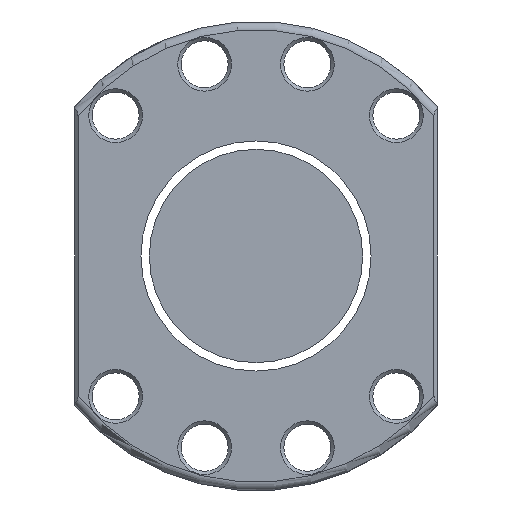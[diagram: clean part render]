
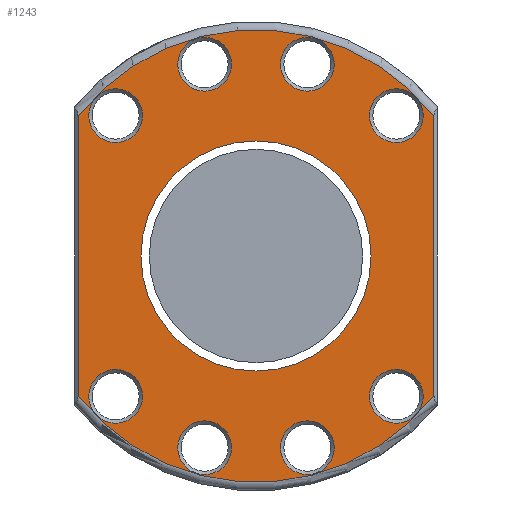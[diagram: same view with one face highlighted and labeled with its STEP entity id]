
A CAD part, left-side view. The second image highlights one B-rep face of the part: STEP entity #1243.
In plain terms, the highlighted planar face has unit normal (-1, 0, 0).
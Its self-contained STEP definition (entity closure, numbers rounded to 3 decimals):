
#27 = CIRCLE ( 'NONE', #1913, 6.3 ) ;
#70 = ORIENTED_EDGE ( 'NONE', *, *, #2938, .T. ) ;
#77 = AXIS2_PLACEMENT_3D ( 'NONE', #2575, #2050, #3082 ) ;
#81 = CIRCLE ( 'NONE', #891, 6.3 ) ;
#105 = EDGE_LOOP ( 'NONE', ( #2760 ) ) ;
#107 = EDGE_CURVE ( 'NONE', #2004, #2776, #3208, .T. ) ;
#110 = DIRECTION ( 'NONE',  ( 0., 0., -1. ) ) ;
#142 = AXIS2_PLACEMENT_3D ( 'NONE', #1722, #2279, #3029 ) ;
#154 = EDGE_CURVE ( 'NONE', #371, #371, #2077, .T. ) ;
#174 = DIRECTION ( 'NONE',  ( 0., -1., 0. ) ) ;
#230 = EDGE_LOOP ( 'NONE', ( #499 ) ) ;
#319 = CARTESIAN_POINT ( 'NONE',  ( -138., -39.18, -32.88 ) ) ;
#329 = ORIENTED_EDGE ( 'NONE', *, *, #465, .T. ) ;
#371 = VERTEX_POINT ( 'NONE', #1407 ) ;
#408 = AXIS2_PLACEMENT_3D ( 'NONE', #3023, #1922, #3247 ) ;
#415 = DIRECTION ( 'NONE',  ( -1., 0., 0. ) ) ;
#426 = CARTESIAN_POINT ( 'NONE',  ( -138., 0., 0. ) ) ;
#465 = EDGE_CURVE ( 'NONE', #2776, #2495, #1507, .T. ) ;
#499 = ORIENTED_EDGE ( 'NONE', *, *, #1861, .T. ) ;
#526 = CIRCLE ( 'NONE', #951, 53. ) ;
#574 = AXIS2_PLACEMENT_3D ( 'NONE', #1926, #1362, #2147 ) ;
#654 = CARTESIAN_POINT ( 'NONE',  ( -138., -41.7, 34.911 ) ) ;
#665 = FACE_BOUND ( 'NONE', #1132, .T. ) ;
#667 = ORIENTED_EDGE ( 'NONE', *, *, #1118, .T. ) ;
#672 = DIRECTION ( 'NONE',  ( 1., 0., 0. ) ) ;
#700 = FACE_BOUND ( 'NONE', #230, .T. ) ;
#723 = CARTESIAN_POINT ( 'NONE',  ( -138., -39.18, 32.88 ) ) ;
#753 = EDGE_LOOP ( 'NONE', ( #2913 ) ) ;
#801 = EDGE_CURVE ( 'NONE', #1643, #1643, #1911, .T. ) ;
#846 = DIRECTION ( 'NONE',  ( -1., 0., 0. ) ) ;
#877 = DIRECTION ( 'NONE',  ( 0., -1., 0. ) ) ;
#891 = AXIS2_PLACEMENT_3D ( 'NONE', #3277, #672, #1406 ) ;
#900 = ORIENTED_EDGE ( 'NONE', *, *, #154, .T. ) ;
#930 = FACE_BOUND ( 'NONE', #105, .T. ) ;
#944 = CIRCLE ( 'NONE', #1370, 6.3 ) ;
#951 = AXIS2_PLACEMENT_3D ( 'NONE', #2145, #846, #3181 ) ;
#954 = VERTEX_POINT ( 'NONE', #2477 ) ;
#962 = FACE_BOUND ( 'NONE', #2403, .T. ) ;
#987 = CARTESIAN_POINT ( 'NONE',  ( -138., 41.7, -32.713 ) ) ;
#1089 = VERTEX_POINT ( 'NONE', #2441 ) ;
#1108 = CIRCLE ( 'NONE', #2295, 6.3 ) ;
#1118 = EDGE_CURVE ( 'NONE', #1089, #1089, #27, .T. ) ;
#1132 = EDGE_LOOP ( 'NONE', ( #1418 ) ) ;
#1214 = FACE_BOUND ( 'NONE', #2266, .T. ) ;
#1243 = ADVANCED_FACE ( 'NONE', ( #1960, #700, #1214, #962, #2740, #930, #2723, #665, #3012, #1978 ), #2214, .T. ) ;
#1268 = AXIS2_PLACEMENT_3D ( 'NONE', #1434, #415, #2450 ) ;
#1318 = ORIENTED_EDGE ( 'NONE', *, *, #3106, .T. ) ;
#1322 = CIRCLE ( 'NONE', #3225, 6.3 ) ;
#1362 = DIRECTION ( 'NONE',  ( 1., 0., 0. ) ) ;
#1370 = AXIS2_PLACEMENT_3D ( 'NONE', #2781, #2510, #2286 ) ;
#1374 = VERTEX_POINT ( 'NONE', #2644 ) ;
#1406 = DIRECTION ( 'NONE',  ( 0., -1., 0. ) ) ;
#1407 = CARTESIAN_POINT ( 'NONE',  ( -138., 5.735, 44.916 ) ) ;
#1418 = ORIENTED_EDGE ( 'NONE', *, *, #2137, .T. ) ;
#1429 = DIRECTION ( 'NONE',  ( 0., -1., 0. ) ) ;
#1434 = CARTESIAN_POINT ( 'NONE',  ( -138., 55., 0. ) ) ;
#1472 = LINE ( 'NONE', #2219, #2080 ) ;
#1502 = CARTESIAN_POINT ( 'NONE',  ( -138., -41.7, 32.713 ) ) ;
#1507 = LINE ( 'NONE', #654, #2509 ) ;
#1544 = CARTESIAN_POINT ( 'NONE',  ( -138., 41.7, 32.713 ) ) ;
#1568 = EDGE_CURVE ( 'NONE', #3176, #3176, #81, .T. ) ;
#1580 = AXIS2_PLACEMENT_3D ( 'NONE', #426, #2223, #1429 ) ;
#1602 = CARTESIAN_POINT ( 'NONE',  ( -138., 32.88, -32.88 ) ) ;
#1631 = EDGE_CURVE ( 'NONE', #1793, #2004, #1472, .T. ) ;
#1643 = VERTEX_POINT ( 'NONE', #2409 ) ;
#1722 = CARTESIAN_POINT ( 'NONE',  ( -138., -12.035, -44.916 ) ) ;
#1793 = VERTEX_POINT ( 'NONE', #1544 ) ;
#1856 = DIRECTION ( 'NONE',  ( 0., -1., 0. ) ) ;
#1861 = EDGE_CURVE ( 'NONE', #2950, #2950, #944, .T. ) ;
#1864 = CIRCLE ( 'NONE', #142, 6.3 ) ;
#1904 = CARTESIAN_POINT ( 'NONE',  ( -138., -12.035, 44.916 ) ) ;
#1911 = CIRCLE ( 'NONE', #77, 26.95 ) ;
#1913 = AXIS2_PLACEMENT_3D ( 'NONE', #1602, #2688, #1856 ) ;
#1922 = DIRECTION ( 'NONE',  ( 1., 0., 0. ) ) ;
#1926 = CARTESIAN_POINT ( 'NONE',  ( -138., 12.035, -44.916 ) ) ;
#1960 = FACE_BOUND ( 'NONE', #3338, .T. ) ;
#1978 = FACE_BOUND ( 'NONE', #753, .T. ) ;
#1980 = ORIENTED_EDGE ( 'NONE', *, *, #2959, .T. ) ;
#2003 = VERTEX_POINT ( 'NONE', #2713 ) ;
#2004 = VERTEX_POINT ( 'NONE', #987 ) ;
#2020 = ORIENTED_EDGE ( 'NONE', *, *, #1631, .T. ) ;
#2050 = DIRECTION ( 'NONE',  ( 1., 0., 0. ) ) ;
#2077 = CIRCLE ( 'NONE', #408, 6.3 ) ;
#2080 = VECTOR ( 'NONE', #110, 1000. ) ;
#2102 = EDGE_LOOP ( 'NONE', ( #900 ) ) ;
#2137 = EDGE_CURVE ( 'NONE', #1374, #1374, #2676, .T. ) ;
#2145 = CARTESIAN_POINT ( 'NONE',  ( -138., 0., 0. ) ) ;
#2147 = DIRECTION ( 'NONE',  ( 0., -1., 0. ) ) ;
#2214 = PLANE ( 'NONE',  #1268 ) ;
#2219 = CARTESIAN_POINT ( 'NONE',  ( -138., 41.7, -34.911 ) ) ;
#2223 = DIRECTION ( 'NONE',  ( -1., 0., 0. ) ) ;
#2266 = EDGE_LOOP ( 'NONE', ( #1980 ) ) ;
#2279 = DIRECTION ( 'NONE',  ( 1., 0., 0. ) ) ;
#2286 = DIRECTION ( 'NONE',  ( 0., -1., 0. ) ) ;
#2295 = AXIS2_PLACEMENT_3D ( 'NONE', #3013, #3043, #174 ) ;
#2379 = CARTESIAN_POINT ( 'NONE',  ( -138., -41.7, -32.713 ) ) ;
#2403 = EDGE_LOOP ( 'NONE', ( #2561 ) ) ;
#2409 = CARTESIAN_POINT ( 'NONE',  ( -138., 26.95, 0. ) ) ;
#2441 = CARTESIAN_POINT ( 'NONE',  ( -138., 26.58, -32.88 ) ) ;
#2450 = DIRECTION ( 'NONE',  ( 0., -1., 0. ) ) ;
#2477 = CARTESIAN_POINT ( 'NONE',  ( -138., -18.335, 44.916 ) ) ;
#2495 = VERTEX_POINT ( 'NONE', #1502 ) ;
#2509 = VECTOR ( 'NONE', #2729, 1000. ) ;
#2510 = DIRECTION ( 'NONE',  ( 1., 0., 0. ) ) ;
#2561 = ORIENTED_EDGE ( 'NONE', *, *, #2755, .T. ) ;
#2575 = CARTESIAN_POINT ( 'NONE',  ( -138., 0., 0. ) ) ;
#2644 = CARTESIAN_POINT ( 'NONE',  ( -138., 5.735, -44.916 ) ) ;
#2676 = CIRCLE ( 'NONE', #574, 6.3 ) ;
#2688 = DIRECTION ( 'NONE',  ( 1., 0., 0. ) ) ;
#2713 = CARTESIAN_POINT ( 'NONE',  ( -138., -18.335, -44.916 ) ) ;
#2723 = FACE_BOUND ( 'NONE', #3084, .T. ) ;
#2729 = DIRECTION ( 'NONE',  ( 0., 0., 1. ) ) ;
#2740 = FACE_BOUND ( 'NONE', #2102, .T. ) ;
#2755 = EDGE_CURVE ( 'NONE', #954, #954, #1322, .T. ) ;
#2760 = ORIENTED_EDGE ( 'NONE', *, *, #1568, .T. ) ;
#2776 = VERTEX_POINT ( 'NONE', #2379 ) ;
#2781 = CARTESIAN_POINT ( 'NONE',  ( -138., -32.88, -32.88 ) ) ;
#2809 = ORIENTED_EDGE ( 'NONE', *, *, #107, .T. ) ;
#2913 = ORIENTED_EDGE ( 'NONE', *, *, #801, .T. ) ;
#2938 = EDGE_CURVE ( 'NONE', #2003, #2003, #1864, .T. ) ;
#2950 = VERTEX_POINT ( 'NONE', #319 ) ;
#2959 = EDGE_CURVE ( 'NONE', #3034, #3034, #1108, .T. ) ;
#3012 = FACE_OUTER_BOUND ( 'NONE', #3202, .T. ) ;
#3013 = CARTESIAN_POINT ( 'NONE',  ( -138., -32.88, 32.88 ) ) ;
#3023 = CARTESIAN_POINT ( 'NONE',  ( -138., 12.035, 44.916 ) ) ;
#3029 = DIRECTION ( 'NONE',  ( 0., -1., 0. ) ) ;
#3034 = VERTEX_POINT ( 'NONE', #723 ) ;
#3043 = DIRECTION ( 'NONE',  ( 1., 0., 0. ) ) ;
#3082 = DIRECTION ( 'NONE',  ( 0., 1., 0. ) ) ;
#3084 = EDGE_LOOP ( 'NONE', ( #667 ) ) ;
#3106 = EDGE_CURVE ( 'NONE', #2495, #1793, #526, .T. ) ;
#3176 = VERTEX_POINT ( 'NONE', #3192 ) ;
#3181 = DIRECTION ( 'NONE',  ( 0., -1., 0. ) ) ;
#3192 = CARTESIAN_POINT ( 'NONE',  ( -138., 26.58, 32.88 ) ) ;
#3202 = EDGE_LOOP ( 'NONE', ( #329, #1318, #2020, #2809 ) ) ;
#3208 = CIRCLE ( 'NONE', #1580, 53. ) ;
#3217 = DIRECTION ( 'NONE',  ( 1., 0., 0. ) ) ;
#3225 = AXIS2_PLACEMENT_3D ( 'NONE', #1904, #3217, #877 ) ;
#3247 = DIRECTION ( 'NONE',  ( 0., -1., 0. ) ) ;
#3277 = CARTESIAN_POINT ( 'NONE',  ( -138., 32.88, 32.88 ) ) ;
#3338 = EDGE_LOOP ( 'NONE', ( #70 ) ) ;
